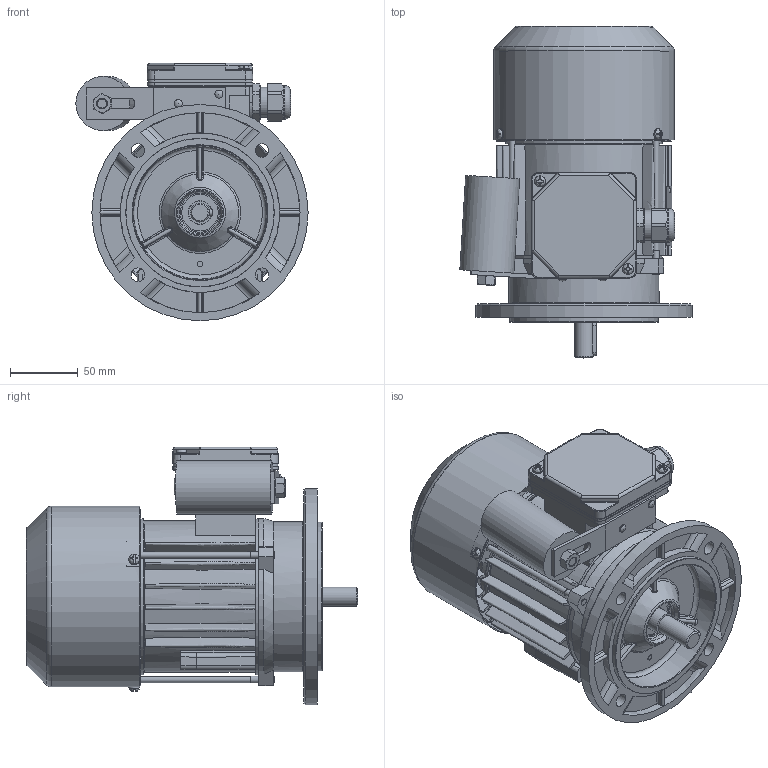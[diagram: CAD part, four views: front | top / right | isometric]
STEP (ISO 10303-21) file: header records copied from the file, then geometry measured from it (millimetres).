
FILE_DESCRIPTION( ( 'Unknown' ), '1' );
FILE_NAME( 'G:/Poczta Tk-1/STP/w.m.71/SEh71/SEKh71-.B.stp', 'Unknown', ( 'K. Szlosek' ), ( 'BESEL S.A.' ), 'PSStep 17.0.49', 'Unknown', ' ' );
FILE_SCHEMA( ( 'AUTOMOTIVE_DESIGN { 1 0 10303 214 1 1 1 1 }' ) );
Length unit declared in the file: millimetre
Products named in the file (33): Assem1; K4-2820 Uszczelka nr 2 Sh71,80; Wkręt samogwintujący M4x16; K3-6469 Tarcza łożyskowa P S(E,M)h71-B,C; Wpust A5x5x25; Wkręt samogwintujący M4x8; K2-1131 Podstawa skrzynki zaciskowej jednofazowa; Nit 4x12 po skróceniu; K4-2999 Uchwyt kondensatora; nakrętka M8; K1-1194 Kadłub z zamkami Sh71-.B; Kondensator zb 11-16uF Comar; K3-3984 Przewietrznik Sh71; K1-1244 Tarcza kołnierzowa B5 w.m. 71; K4-2320 Uszczelka nr 1 Sh71,80; K3-2975 Osłona przewietrznika Sh71-.B,C; K2-0860 Pokrywka skrzynki zaciskowej; K3-4502 wał standard Sh71-B; Nitokołek A 2x6; Łożysko 6203; Śruba ściągająca E_M5x110; Tabliczka znamionowa 32x44; Dławnica M20x1,5; K4-0898 Tulejka uszczelniająca
Assembly tree (49 placements, depth 2):
  Assem1
    K4-2820 Uszczelka nr 2 Sh71,80
    Wkręt samogwintujący M4x16  x2
    K3-6469 Tarcza łożyskowa P S(E,M)h71-B,C
    Wpust A5x5x25
    Wkręt samogwintujący M4x8  x3
    K2-1131 Podstawa skrzynki zaciskowej jednofazowa
    Nit 4x12 po skróceniu  x2
    K4-2999 Uchwyt kondensatora
    nakrętka M8
    K1-1194 Kadłub z zamkami Sh71-.B
    Kondensator zb 11-16uF Comar
    K3-3984 Przewietrznik Sh71
    K1-1244 Tarcza kołnierzowa B5 w.m. 71
    K4-2320 Uszczelka nr 1 Sh71,80
    K3-2975 Osłona przewietrznika Sh71-.B,C
    K2-0860 Pokrywka skrzynki zaciskowej
    K3-4502 wał standard Sh71-B
    Nitokołek A 2x6  x2
    Łożysko 6203  x2
    Łożysko 6203  x2
    Łożysko 6203  x2
    Łożysko 6203  x2
    Łożysko 6203  x2
    Łożysko 6203  x2
    Łożysko 6203  x2
    Łożysko 6203  x2
    Łożysko 6203  x2
    Łożysko 6203  x2
    Śruba ściągająca E_M5x110  x3
    Tabliczka znamionowa 32x44
    Dławnica M20x1,5
    K4-0898 Tulejka uszczelniająca
Bounding box: 171.81 x 245.5 x 190.5 mm (x, y, z)
Volume: 756723.3 mm3; surface area: 456833.3 mm2
Topology: 49 solids, 65 shells, 2380 faces, 6430 edges, 4123 vertices
Faces by surface type: plane 960, cylinder 701, bspline 343, torus 177, cone 157, sphere 42
Full cylindrical faces by diameter (mm): 2 x2, 2.4 x2, 3 x1, 3.7 x7, 3.8 x4, 4 x8, 4.2 x3, 4.3 x2, 4.5 x3, 4.6 x3, 4.8 x4, 5 x7, 5.5 x3, 6 x2, 6.5 x1, 6.647 x1, 7 x1, 8 x10, 10 x6, 14 x1, 15.9 x1, 16.1 x1, 16.5 x1, 17 x4, 17.4 x2, 18.376 x1, 18.38 x1, 20 x1, 22 x2, 22.3 x1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
Entity records: 138738 total; most frequent: CARTESIAN_POINT 68197, ORIENTED_EDGE 11326, DIRECTION 10157, EDGE_CURVE 5663, AXIS2_PLACEMENT_3D 3896, VERTEX_POINT 3786, EDGE_LOOP 2649, LINE 2365
